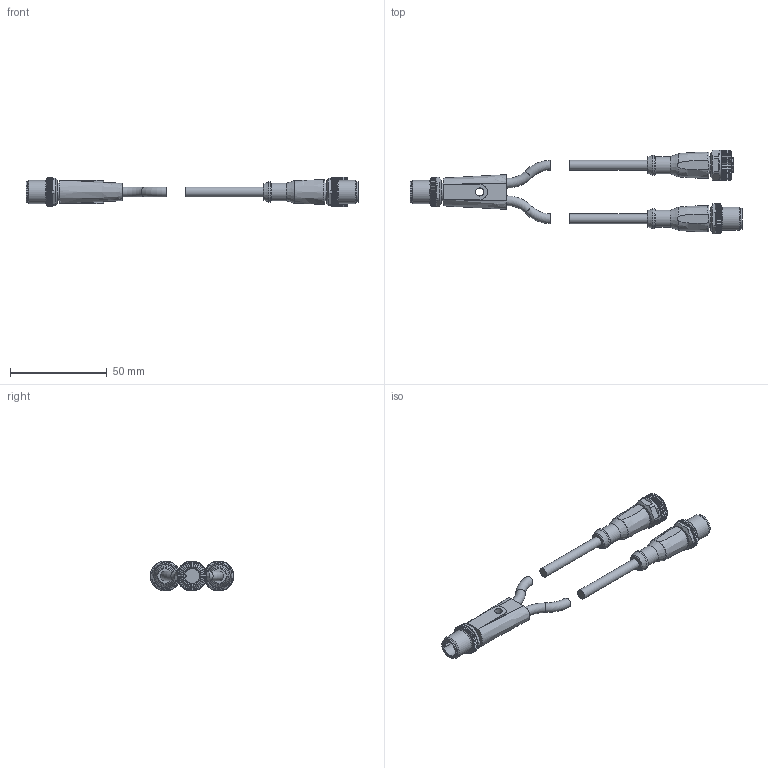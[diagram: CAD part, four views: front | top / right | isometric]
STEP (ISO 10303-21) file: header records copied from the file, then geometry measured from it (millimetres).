
FILE_DESCRIPTION( ( 'STEP AP203' ), ' ' );
FILE_NAME( 'p:/temp/worker_952/1000_5840/app_41_02017070714104055122188192d056f_000000_00_00_000000/format_2/EVC693.stp', '2017-07-07T12:10:45', ( '' ), ( '' ), ' ', 'PARTsolutions', ' ' );
FILE_SCHEMA( ( 'CONFIG_CONTROL_DESIGN' ) );
Length unit declared in the file: millimetre
Products named in the file (4): EVC693; _EVC693_part1; _EVC693_part2; _EVC693_part3
Assembly tree (3 placements, depth 2):
  EVC693
    _EVC693_part1
    _EVC693_part2
    _EVC693_part3
Bounding box: 171.93 x 43.24 x 15.5 mm (x, y, z)
Volume: 18800.2 mm3; surface area: 10429.9 mm2
Topology: 3 solids, 3 shells, 701 faces, 1629 edges, 956 vertices
Faces by surface type: plane 633, cylinder 28, torus 19, cone 15, bspline 6
Full cylindrical faces by diameter (mm): 4.2 x1, 5 x2, 8.3 x2, 9 x5, 9.9 x2, 10.401 x2, 10.7 x2, 10.917 x1, 12 x2, 15.5 x3
Entity records: 19933 total; most frequent: CARTESIAN_POINT 4961, ORIENTED_EDGE 3130, DIRECTION 2850, EDGE_CURVE 1565, AXIS2_PLACEMENT_3D 1012, VERTEX_POINT 941, LINE 826, VECTOR 826
